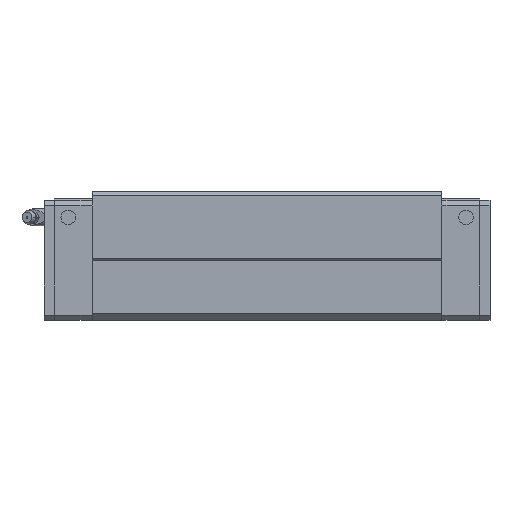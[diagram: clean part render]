
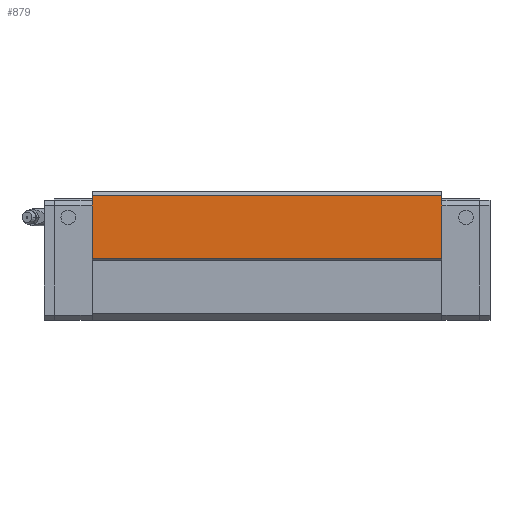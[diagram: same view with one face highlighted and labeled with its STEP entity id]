
A CAD part, front view. The second image highlights one B-rep face of the part: STEP entity #879.
In plain terms, the highlighted planar face has unit normal (0, -1, 0).
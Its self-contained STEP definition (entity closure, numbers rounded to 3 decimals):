
#818=CARTESIAN_POINT('POINT50',(231.6,-63.,
   36.));
#819=VERTEX_POINT('VERTEX50',#818);
#826=CARTESIAN_POINT('POINT51',(28.,-63.,36.
   ));
#827=VERTEX_POINT('VERTEX51',#826);
#828=CARTESIAN_POINT('POS85',(28.,-63.,36.))
   ;
#829=DIRECTION('DIR126',(1.,0.,0.));
#830=VECTOR('VEC44',#829,1.);
#831=LINE('STRAIGHT44',#828,#830);
#832=EDGE_CURVE('EDGE82',#827,#819,#831,.T.);
#849=CARTESIAN_POINT('POINT52',(231.6,-63.,
   72.5));
#850=VERTEX_POINT('VERTEX52',#849);
#851=CARTESIAN_POINT('POS88',(231.6,-63.,36.
   ));
#852=DIRECTION('DIR130',(0.,0.,1.));
#853=VECTOR('VEC46',#852,1.);
#854=LINE('STRAIGHT46',#851,#853);
#855=EDGE_CURVE('EDGE84',#819,#850,#854,.T.);
#856=ORIENTED_EDGE('COEDGE151',*,*,#855,.T.);
#857=CARTESIAN_POINT('POINT53',(28.,-63.,72.5
   ));
#858=VERTEX_POINT('VERTEX53',#857);
#859=CARTESIAN_POINT('POS89',(28.,-63.,72.5))
   ;
#860=DIRECTION('DIR131',(1.,0.,0.));
#861=VECTOR('VEC47',#860,1.);
#862=LINE('STRAIGHT47',#859,#861);
#863=EDGE_CURVE('EDGE85',#858,#850,#862,.T.);
#864=ORIENTED_EDGE('COEDGE152',*,*,#863,.F.);
#865=CARTESIAN_POINT('POS90',(28.,-63.,36.))
   ;
#866=DIRECTION('DIR132',(0.,0.,1.));
#867=VECTOR('VEC48',#866,1.);
#868=LINE('STRAIGHT48',#865,#867);
#869=EDGE_CURVE('EDGE86',#827,#858,#868,.T.);
#870=ORIENTED_EDGE('COEDGE153',*,*,#869,.F.);
#871=ORIENTED_EDGE('COEDGE154',*,*,#832,.T.);
#872=EDGE_LOOP('NONE',(#856,#864,#870,#871));
#873=FACE_BOUND('LOOP1',#872,.T.);
#874=CARTESIAN_POINT('POS91',(28.,-63.,36.))
   ;
#875=DIRECTION('DIR133',(0.,-1.,0.));
#876=DIRECTION('DIR134',(1.,0.,0.));
#877=AXIS2_PLACEMENT_3D('AXIS43',#874,#875,#876);
#878=PLANE('PLANE8',#877);
#879=ADVANCED_FACE('FACE40',(#873),#878,.T.);
